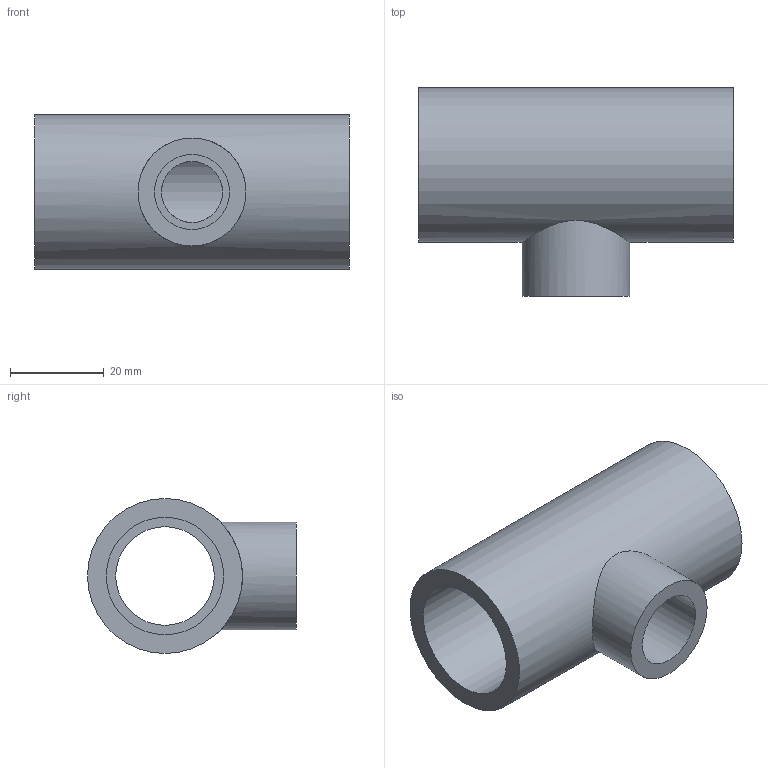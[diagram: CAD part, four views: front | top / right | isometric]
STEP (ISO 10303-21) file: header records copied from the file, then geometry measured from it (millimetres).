
FILE_DESCRIPTION(/* description */ ('PVC ti a 90° ridotto incollaggio metrico'),/* implementation_level */ '2;1');
FILE_NAME(/* name */ 'C:\Users\POLYPIPE\Desktop\DATASET INVENTOR\LIBRERIA EFFAST\RACCORDI 3DxWEB\RDR\3D_RDRTRD\3D_RDRTRD025A.stp',/* time_stamp */ '2018-01-19T15:45:14+01:00',/* author */ ('POLYPIPE'),/* organization */ ('Polypipe Italia s.r.l.'),/* preprocessor_version */ 'ST-DEVELOPER v16.1',/* originating_system */ 'Autodesk Inventor 2016',/* authorisation */ '');
FILE_SCHEMA (('CONFIG_CONTROL_DESIGN'));
Length unit declared in the file: millimetre
Products named in the file (1): 3D_RDRTRD
Bounding box: 67 x 44.5 x 33 mm (x, y, z)
Volume: 30484.8 mm3; surface area: 14441.9 mm2
Topology: 1 solids, 1 shells, 13 faces, 23 edges, 16 vertices
Faces by surface type: cylinder 7, plane 6
Full cylindrical faces by diameter (mm): 13 x1, 16 x1, 21 x1, 23 x1, 25 x2, 33 x1
Entity records: 382 total; most frequent: CARTESIAN_POINT 124, DIRECTION 52, EDGE_LOOP 28, ORIENTED_EDGE 28, AXIS2_PLACEMENT_3D 26, FACE_BOUND 15, VERTEX_POINT 14, EDGE_CURVE 14
